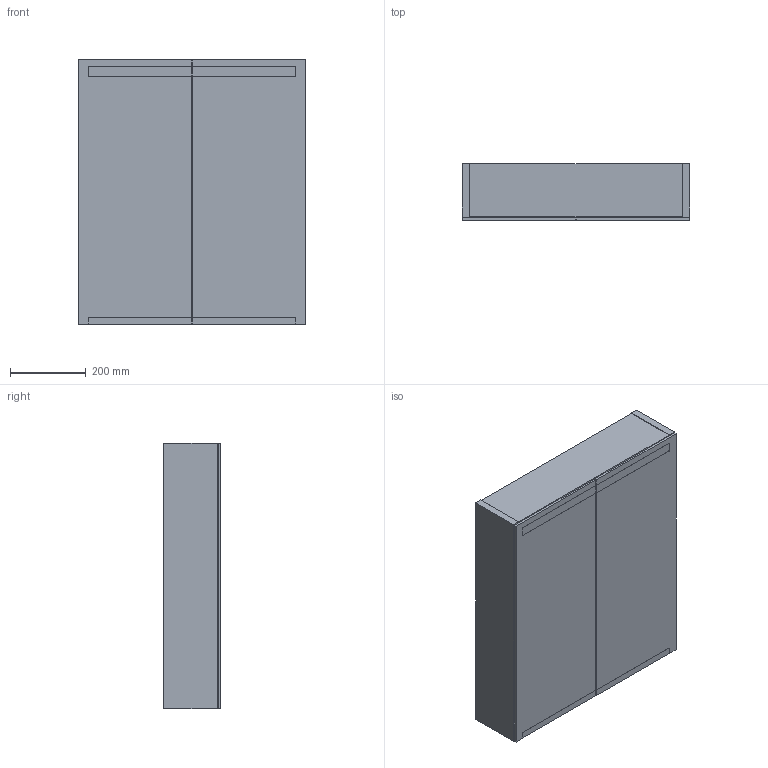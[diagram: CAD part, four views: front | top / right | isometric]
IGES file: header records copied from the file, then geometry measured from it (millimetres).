
Global section: file name: 500582; native system: Autodesk Inventor 2018; preprocessor: unknown; author: JANAN; date: 20200113.154701; units: millimetre
Bounding box: 600 x 150 x 700 mm (x, y, z)
Volume: 12956396 mm3; surface area: 2789598.5 mm2
Topology: 3 solids, 5 shells, 84 faces, 222 edges, 148 vertices
Faces by surface type: bspline 84
